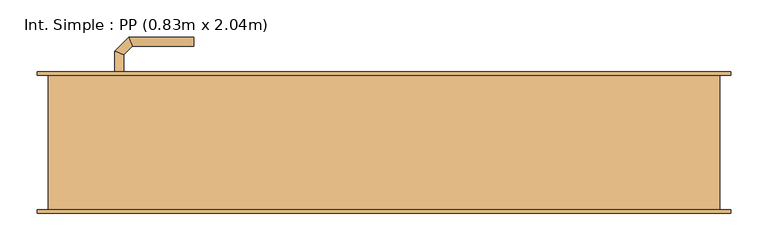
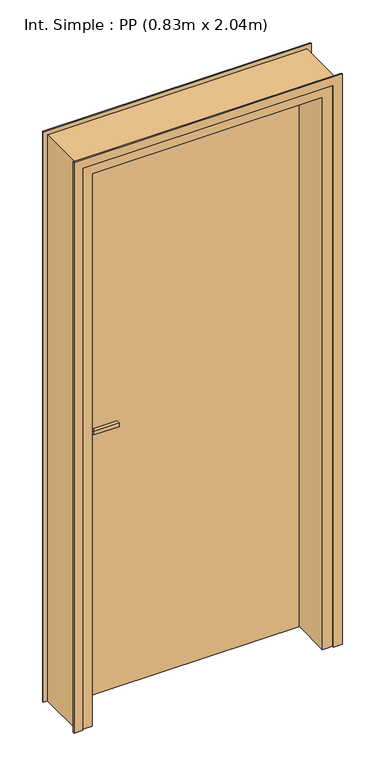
"""IFC4 building model written with IfcOpenShell, lengths in millimetres: door geometry, Int. Simple : PP (0.83m x 2.04m)."""

from ifc_helpers import new_model, si_unit, point, frame, frame_2d, origin, origin_with_axes, place, context, project, spatial, polyline, circle_curve, ellipse_curve, trimmed, segment, composite_curve, outline, extrude, faceted_brep, source, transform, mapped, element, save
from ifc_brep_helpers import plane_surface, cylinder_surface, advanced_brep


def int_simple_pp_0_83m_x_2_04m_469df17f(model_context):
    return source(origin(), model_context, "Body", "SolidModel", [
        extrude(outline(composite_curve([segment(trimmed(circle_curve(frame_2d((904.6410162, -390.0)), 40.0), [point((870.0, -410.0))], [point((870.0, -370.0))], False, "CARTESIAN"), True, "CONTINUOUS"), segment(polyline([(870.0, -370.0), (1080.0, -370.0)]), True, "CONTINUOUS"), segment(trimmed(circle_curve(frame_2d((1045.3589838, -390.0)), 40.0), [point((1080.0, -370.0))], [point((1080.0, -410.0))], False, "CARTESIAN"), True, "CONTINUOUS"), segment(polyline([(1080.0, -410.0), (870.0, -410.0)]), True, "CONTINUOUS")], self_intersect=False)), frame((0.0, 90.0, 0.0), z_axis=(0.0, 1.0, 0.0), x_axis=(0.0, 0.0, 1.0)), (0.0, 0.0, 1.0), 5.0),
        extrude(outline(composite_curve([segment(trimmed(circle_curve(frame_2d((1045.3589838, -390.0)), 40.0), [point((1080.0, -370.0))], [point((1080.0, -410.0))], False, "CARTESIAN"), True, "CONTINUOUS"), segment(polyline([(1080.0, -410.0), (870.0, -410.0)]), True, "CONTINUOUS"), segment(trimmed(circle_curve(frame_2d((904.6410162, -390.0)), 40.0), [point((870.0, -410.0))], [point((870.0, -370.0))], False, "CARTESIAN"), True, "CONTINUOUS"), segment(polyline([(870.0, -370.0), (1080.0, -370.0)]), True, "CONTINUOUS")], self_intersect=False)), frame((0.0, 45.0, 0.0), z_axis=(0.0, 1.0, 0.0), x_axis=(0.0, 0.0, 1.0)), (0.0, 0.0, 1.0), 5.0),
        advanced_brep(
        [(-396.0, 95.0, 1007.0), (-396.0, 95.0, 993.0), (-384.0, 95.0, 993.0), (-384.0, 95.0, 1007.0), (-384.0, 117.680388, 1007.0), (-396.0, 122.6509507, 1007.0), (-384.0, 117.680388, 993.0), (-396.0, 122.6509507, 993.0), (-372.6522273, 129.0281607, 1007.0), (-377.62279, 141.0281607, 1007.0), (-372.6522273, 129.0281607, 993.0), (-377.62279, 141.0281607, 993.0), (-289.9813594, 141.0281607, 1007.0), (-289.9813594, 129.0281607, 1007.0), (-289.9813594, 129.0281607, 993.0), (-289.9813594, 141.0281607, 993.0)],
        [
            (0, 1),
            (1, 2, circle_curve(frame((-390.0, 95.0, 1013.0457722), z_axis=(0.0, -1.0, 0.0), x_axis=(1.0, 0.0, 0.0)), 20.9244589)),
            (2, 3),
            (3, 0, circle_curve(frame((-390.0, 95.0, 986.9542278), z_axis=(0.0, -1.0, 0.0), x_axis=(1.0, 0.0, 0.0)), 20.9244589)),
            (3, 4),
            (4, 5, ellipse_curve(frame((-390.0, 120.1656693, 986.9542278), z_axis=(-0.3826834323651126, -0.9238795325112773, 0.0), x_axis=(0.9238795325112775, -0.38268343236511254, 0.0)), 22.6484711, 20.9244589)),
            (5, 0),
            (2, 6),
            (6, 4),
            (1, 7),
            (7, 6, ellipse_curve(frame((-390.0, 120.1656693, 1013.0457722), z_axis=(-0.3826834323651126, -0.9238795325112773, 0.0), x_axis=(0.9238795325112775, -0.38268343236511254, 0.0)), 22.6484711, 20.9244589)),
            (5, 7),
            (4, 8),
            (8, 9, ellipse_curve(frame((-375.1375086, 135.0281607, 986.9542278), z_axis=(-0.9238795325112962, -0.38268343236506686, 0.0), x_axis=(0.3826834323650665, -0.9238795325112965, 0.0)), 22.6484711, 20.9244589)),
            (9, 5),
            (6, 10),
            (10, 8),
            (7, 11),
            (11, 10, ellipse_curve(frame((-375.1375086, 135.0281607, 1013.0457722), z_axis=(-0.9238795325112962, -0.38268343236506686, 0.0), x_axis=(0.3826834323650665, -0.9238795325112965, 0.0)), 22.6484711, 20.9244589)),
            (9, 11),
            (12, 13, circle_curve(frame((-289.9813594, 135.0281607, 986.9542278), z_axis=(1.0, 0.0, 0.0), x_axis=(0.0, -1.0, 0.0)), 20.9244589)),
            (13, 14),
            (14, 15, circle_curve(frame((-289.9813594, 135.0281607, 1013.0457722), z_axis=(1.0, 0.0, 0.0), x_axis=(0.0, -1.0, 0.0)), 20.9244589)),
            (15, 12),
            (8, 13),
            (12, 9),
            (10, 14),
            (11, 15),
        ],
        [
            plane_surface(frame((-399.2195445, 95.0, 1000.0), z_axis=(0.0, -1.0, 0.0), x_axis=(0.0, 0.0, -1.0))),
            cylinder_surface(frame((-390.0, 95.0, 986.9542278), z_axis=(0.0, -1.0, 0.0), x_axis=(1.0, 0.0, 0.0)), 20.9244589),
            plane_surface(frame((-384.0, 95.0, 1007.0), z_axis=(1.0, 0.0, 0.0), x_axis=(0.0, 1.0, 0.0))),
            cylinder_surface(frame((-390.0, 95.0, 1013.0457722), z_axis=(0.0, -1.0, 0.0), x_axis=(1.0, 0.0, 0.0)), 20.9244589),
            plane_surface(frame((-396.0, 95.0, 993.0), z_axis=(-1.0, 0.0, 0.0), x_axis=(0.0, 1.0, 0.0))),
            cylinder_surface(frame((-390.0, 120.1656693, 986.9542278), z_axis=(-0.7071067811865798, -0.7071067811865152, 0.0), x_axis=(0.7071067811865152, -0.7071067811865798, 0.0)), 20.9244589),
            plane_surface(frame((-384.0, 117.680388, 1007.0), z_axis=(0.7071067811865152, -0.7071067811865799, 0.0), x_axis=(0.7071067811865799, 0.7071067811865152, 0.0))),
            cylinder_surface(frame((-390.0, 120.1656693, 1013.0457722), z_axis=(-0.7071067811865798, -0.7071067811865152, 0.0), x_axis=(0.7071067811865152, -0.7071067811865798, 0.0)), 20.9244589),
            plane_surface(frame((-396.0, 122.6509507, 993.0), z_axis=(-0.7071067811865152, 0.7071067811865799, 0.0), x_axis=(0.7071067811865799, 0.7071067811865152, 0.0))),
            plane_surface(frame((-289.9813594, 135.0281607, 990.7804555), z_axis=(1.0, 0.0, 0.0), x_axis=(0.0, -1.0, 0.0))),
            cylinder_surface(frame((-375.1375086, 135.0281607, 986.9542278), z_axis=(-1.0, 0.0, 0.0), x_axis=(0.0, -1.0, 0.0)), 20.9244589),
            plane_surface(frame((-372.6522273, 129.0281607, 1007.0), z_axis=(0.0, -1.0, 0.0), x_axis=(1.0, 0.0, 0.0))),
            cylinder_surface(frame((-375.1375086, 135.0281607, 1013.0457722), z_axis=(-1.0, 0.0, 0.0), x_axis=(0.0, -1.0, 0.0)), 20.9244589),
            plane_surface(frame((-377.62279, 141.0281607, 993.0), z_axis=(0.0, 1.0, 0.0), x_axis=(1.0, 0.0, 0.0))),
        ],
        [
            (0, [[1, 2, 3, 4]]),
            (1, [[5, 6, 7, -4]]),
            (2, [[8, 9, -5, -3]]),
            (3, [[10, 11, -8, -2]]),
            (4, [[-7, 12, -10, -1]]),
            (5, [[13, 14, 15, -6]]),
            (6, [[16, 17, -13, -9]]),
            (7, [[18, 19, -16, -11]]),
            (8, [[-15, 20, -18, -12]]),
            (9, [[21, 22, 23, 24]]),
            (10, [[25, -21, 26, -14]]),
            (11, [[27, -22, -25, -17]]),
            (12, [[28, -23, -27, -19]]),
            (13, [[-26, -24, -28, -20]]),
        ],
    ),
        advanced_brep(
        [(-384.0, 45.0, 993.0), (-396.0, 45.0, 993.0), (-396.0, 45.0, 1007.0), (-384.0, 45.0, 1007.0), (-384.0, 22.5147955, 1007.0), (-384.0, 22.5147955, 993.0), (-396.0, 17.5442327, 1007.0), (-396.0, 17.5442327, 993.0), (-372.5147186, 11.0295141, 1007.0), (-372.5147186, 11.0295141, 993.0), (-377.4852814, -0.9704859, 1007.0), (-377.4852814, -0.9704859, 993.0), (-289.9542163, 11.0295141, 993.0), (-289.9542163, 11.0295141, 1007.0), (-289.9542163, -0.9704859, 1007.0), (-289.9542163, -0.9704859, 993.0)],
        [
            (0, 1, circle_curve(frame((-390.0, 45.0, 1013.0457722), z_axis=(0.0, 1.0, 0.0), x_axis=(-1.0, 0.0, 0.0)), 20.9244589)),
            (1, 2),
            (2, 3, circle_curve(frame((-390.0, 45.0, 986.9542278), z_axis=(0.0, 1.0, 0.0), x_axis=(-1.0, 0.0, 0.0)), 20.9244589)),
            (3, 0),
            (3, 4),
            (4, 5),
            (5, 0),
            (2, 6),
            (6, 4, ellipse_curve(frame((-390.0, 20.0295141, 986.9542278), z_axis=(-0.3826834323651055, 0.9238795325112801, 0.0), x_axis=(0.9238795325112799, 0.3826834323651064, 0.0)), 22.6484711, 20.9244589)),
            (1, 7),
            (7, 6),
            (5, 7, ellipse_curve(frame((-390.0, 20.0295141, 1013.0457722), z_axis=(-0.3826834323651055, 0.9238795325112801, 0.0), x_axis=(0.9238795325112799, 0.3826834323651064, 0.0)), 22.6484711, 20.9244589)),
            (4, 8),
            (8, 9),
            (9, 5),
            (6, 10),
            (10, 8, ellipse_curve(frame((-375.0, 5.0295141, 986.9542278), z_axis=(-0.9238795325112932, 0.382683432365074, 0.0), x_axis=(0.3826834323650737, 0.9238795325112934, 0.0)), 22.6484711, 20.9244589)),
            (7, 11),
            (11, 10),
            (9, 11, ellipse_curve(frame((-375.0, 5.0295141, 1013.0457722), z_axis=(-0.9238795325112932, 0.382683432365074, 0.0), x_axis=(0.3826834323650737, 0.9238795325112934, 0.0)), 22.6484711, 20.9244589)),
            (12, 13),
            (13, 14, circle_curve(frame((-289.9542163, 5.0295141, 986.9542278), z_axis=(1.0, 0.0, 0.0), x_axis=(0.0, -1.0, 0.0)), 20.9244589)),
            (14, 15),
            (15, 12, circle_curve(frame((-289.9542163, 5.0295141, 1013.0457722), z_axis=(1.0, 0.0, 0.0), x_axis=(0.0, -1.0, 0.0)), 20.9244589)),
            (8, 13),
            (12, 9),
            (10, 14),
            (11, 15),
        ],
        [
            plane_surface(frame((-399.2195445, 45.0, 1000.0), z_axis=(0.0, 1.0, 0.0), x_axis=(0.0, 0.0, 1.0))),
            plane_surface(frame((-384.0, 45.0, 993.0), z_axis=(1.0, 0.0, 0.0), x_axis=(0.0, -1.0, 0.0))),
            cylinder_surface(frame((-390.0, 45.0, 986.9542278), z_axis=(0.0, 1.0, 0.0), x_axis=(-1.0, 0.0, 0.0)), 20.9244589),
            plane_surface(frame((-396.0, 45.0, 1007.0), z_axis=(-1.0, 0.0, 0.0), x_axis=(0.0, -1.0, 0.0))),
            cylinder_surface(frame((-390.0, 45.0, 1013.0457722), z_axis=(0.0, 1.0, 0.0), x_axis=(-1.0, 0.0, 0.0)), 20.9244589),
            plane_surface(frame((-384.0, 22.5147955, 993.0), z_axis=(0.7071067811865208, 0.7071067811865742, 0.0), x_axis=(0.7071067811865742, -0.7071067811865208, 0.0))),
            cylinder_surface(frame((-390.0, 20.0295141, 986.9542278), z_axis=(-0.7071067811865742, 0.7071067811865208, 0.0), x_axis=(-0.7071067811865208, -0.7071067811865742, 0.0)), 20.9244589),
            plane_surface(frame((-396.0, 17.5442327, 1007.0), z_axis=(-0.7071067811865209, -0.7071067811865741, 0.0), x_axis=(0.7071067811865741, -0.7071067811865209, 0.0))),
            cylinder_surface(frame((-390.0, 20.0295141, 1013.0457722), z_axis=(-0.7071067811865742, 0.7071067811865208, 0.0), x_axis=(-0.7071067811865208, -0.7071067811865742, 0.0)), 20.9244589),
            plane_surface(frame((-289.9542163, 5.0295141, 990.7804555), z_axis=(1.0, 0.0, 0.0), x_axis=(0.0, -1.0, 0.0))),
            plane_surface(frame((-372.5147186, 11.0295141, 993.0), z_axis=(0.0, 1.0, 0.0), x_axis=(1.0, 0.0, 0.0))),
            cylinder_surface(frame((-375.0, 5.0295141, 986.9542278), z_axis=(-1.0, 0.0, 0.0), x_axis=(0.0, -1.0, 0.0)), 20.9244589),
            plane_surface(frame((-377.4852814, -0.9704859, 1007.0), z_axis=(0.0, -1.0, 0.0), x_axis=(1.0, 0.0, 0.0))),
            cylinder_surface(frame((-375.0, 5.0295141, 1013.0457722), z_axis=(-1.0, 0.0, 0.0), x_axis=(0.0, -1.0, 0.0)), 20.9244589),
        ],
        [
            (0, [[1, 2, 3, 4]]),
            (1, [[5, 6, 7, -4]]),
            (2, [[8, 9, -5, -3]]),
            (3, [[10, 11, -8, -2]]),
            (4, [[-7, 12, -10, -1]]),
            (5, [[13, 14, 15, -6]]),
            (6, [[16, 17, -13, -9]]),
            (7, [[18, 19, -16, -11]]),
            (8, [[-15, 20, -18, -12]]),
            (9, [[21, 22, 23, 24]]),
            (10, [[25, -21, 26, -14]]),
            (11, [[27, -22, -25, -17]]),
            (12, [[28, -23, -27, -19]]),
            (13, [[-26, -24, -28, -20]]),
        ],
    ),
        extrude(outline(polyline([(-450.0, 50.0), (-450.0, 90.0), (380.0, 90.0), (380.0, 50.0), (-450.0, 50.0)])), origin_with_axes(), (0.0, 0.0, 1.0), 2040.0),
        faceted_brep([(-485.0, 90.0, 0.0), (-450.0, 90.0, 0.0), (-450.0, 50.0, 0.0), (-435.0, 50.0, 0.0), (-435.0, -90.0, 0.0), (-485.0, -90.0, 0.0), (-485.0, -90.0, 2075.0), (-485.0, 90.0, 2075.0), (-435.0, -90.0, 2025.0), (365.0, -90.0, 2025.0), (365.0, -90.0, 0.0), (415.0, -90.0, 0.0), (415.0, -90.0, 2075.0), (-435.0, 50.0, 2025.0), (-450.0, 50.0, 2040.0), (380.0, 50.0, 2040.0), (380.0, 50.0, 0.0), (365.0, 50.0, 0.0), (365.0, 50.0, 2025.0), (-450.0, 90.0, 2040.0), (415.0, 90.0, 2075.0), (415.0, 90.0, 0.0), (380.0, 90.0, 0.0), (380.0, 90.0, 2040.0)], [[[0, 1, 2, 3, 4, 5]], [[5, 6, 7, 0]], [[4, 8, 9, 10, 11, 12, 6, 5]], [[3, 13, 8, 4]], [[2, 14, 15, 16, 17, 18, 13, 3]], [[1, 19, 14, 2]], [[0, 7, 20, 21, 22, 23, 19, 1]], [[12, 11, 21, 20]], [[21, 11, 10, 17, 16, 22]], [[18, 17, 10, 9]], [[23, 22, 16, 15]], [[6, 12, 20, 7]], [[13, 18, 9, 8]], [[19, 23, 15, 14]]]),
        extrude(outline(polyline([(0.0, -470.0), (2060.0, -470.0), (2060.0, 400.0), (0.0, 400.0), (0.0, 430.0), (2090.0, 430.0), (2090.0, -500.0), (0.0, -500.0), (0.0, -470.0)])), frame((0.0, 90.0, 0.0), z_axis=(0.0, 1.0, 0.0), x_axis=(0.0, 0.0, 1.0)), (0.0, 0.0, 1.0), 5.0),
        extrude(outline(polyline([(0.0, -470.0), (2060.0, -470.0), (2060.0, 400.0), (0.0, 400.0), (0.0, 430.0), (2090.0, 430.0), (2090.0, -500.0), (0.0, -500.0), (0.0, -470.0)])), frame((0.0, -95.0, 0.0), z_axis=(0.0, 1.0, 0.0), x_axis=(0.0, 0.0, 1.0)), (0.0, 0.0, 1.0), 5.0),
    ])


if __name__ == "__main__":
    model = new_model("IFC4")
    model_context = context("Model", 3, world=origin())
    ifc_project = project(units=[si_unit("LENGTHUNIT", "METRE", prefix="MILLI")], contexts=[model_context])
    site = spatial("IfcSite", under=ifc_project)
    building = spatial("IfcBuilding", under=site)
    placement = place(None, origin())
    int_simple_pp_0_83m_x_2_04m_shape = int_simple_pp_0_83m_x_2_04m_469df17f(model_context)
    element("IfcDoor", 1, ObjectType="Int. Simple : PP (0.83m x 2.04m)", at=placement, inside=building, context=model_context, shape_type="MappedRepresentation", body=[
        mapped(int_simple_pp_0_83m_x_2_04m_shape, transform((0.0, 0.0, 0.0), x_axis=(1.0, 0.0, 0.0), y_axis=(0.0, 1.0, 0.0), z_axis=(0.0, 0.0, 1.0))),
    ])
    save(model, "model.ifc")
